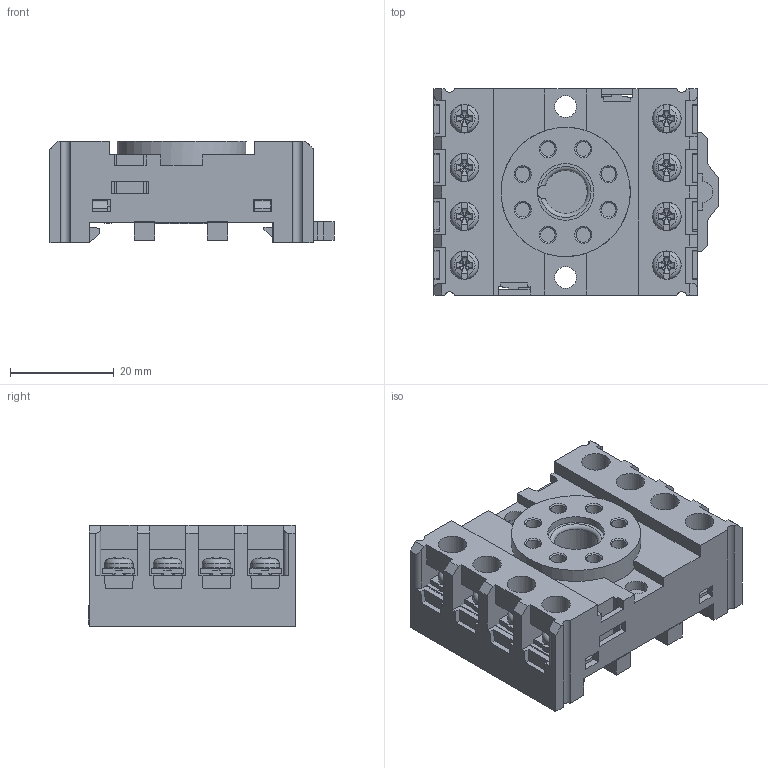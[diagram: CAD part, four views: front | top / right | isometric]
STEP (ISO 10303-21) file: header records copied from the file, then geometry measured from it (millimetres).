
FILE_DESCRIPTION(('FreeCAD Model'),'2;1');
FILE_NAME('Open CASCADE Shape Model','2023-06-09T11:01:19',(''),(''), 'Open CASCADE STEP processor 7.6','FreeCAD','Unknown');
FILE_SCHEMA(('AUTOMOTIVE_DESIGN { 1 0 10303 214 1 1 1 1 }'));
Products named in the file (1): 10f-2z-c2-
Bounding box: 54.7 x 40 x 19.5 mm (x, y, z)
Volume: 23528 mm3; surface area: 23361.1 mm2
Topology: 19 solids, 19 shells, 1472 faces, 12154 edges, 34473 vertices
Faces by surface type: plane 884, cylinder 339, bspline 144, sphere 80, cone 16, torus 9
Full cylindrical faces by diameter (mm): 2 x2, 2.5 x72, 2.8 x8, 3 x8, 4 x8, 4.2 x2, 5 x8, 5.498 x8, 5.5 x8, 10.9 x1, 15 x1, 24.9 x1
Entity records: 534668 total; most frequent: CARTESIAN_POINT 395239, DIRECTION 22107, LINE 13689, VECTOR 13689, GEOMETRIC_CURVE_SET 8061, ORIENTED_EDGE 7932, PCURVE 7932, DEFINITIONAL_REPRESENTATION 7932
